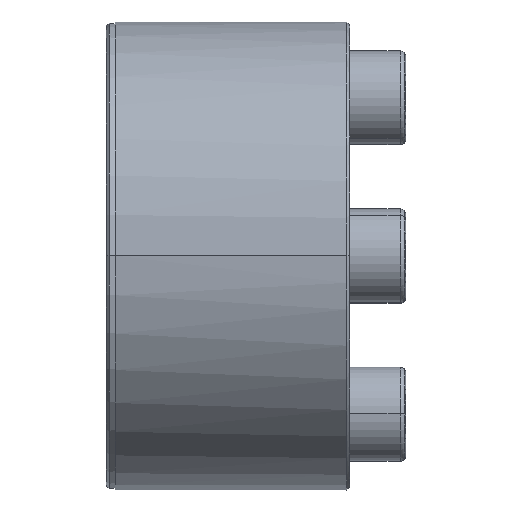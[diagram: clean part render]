
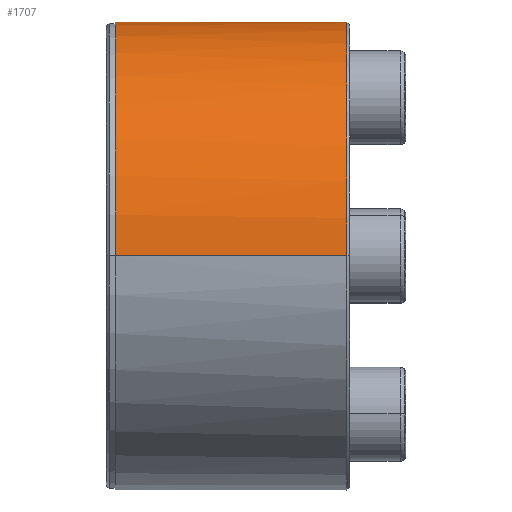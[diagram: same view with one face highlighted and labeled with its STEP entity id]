
A CAD part, top view. The second image highlights one B-rep face of the part: STEP entity #1707.
In plain terms, the highlighted cylindrical face has radius 25 mm (diameter 50 mm), a partial arc.
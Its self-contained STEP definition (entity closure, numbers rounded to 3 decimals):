
#47 = AXIS2_PLACEMENT_3D ( 'NONE', #2079, #1946, #1507 ) ;
#171 = CARTESIAN_POINT ( 'NONE',  ( 25.689, 11.078, -22.471 ) ) ;
#294 = CIRCLE ( 'NONE', #5323, 25. ) ;
#442 = VECTOR ( 'NONE', #4102, 1000. ) ;
#534 = EDGE_CURVE ( 'NONE', #4260, #1468, #294, .T. ) ;
#541 = CARTESIAN_POINT ( 'NONE',  ( 0.989, 0., 0. ) ) ;
#671 = CARTESIAN_POINT ( 'NONE',  ( 25.689, 23.723, -8.056 ) ) ;
#709 = CARTESIAN_POINT ( 'NONE',  ( 25.689, 6.481, -24.201 ) ) ;
#748 = CARTESIAN_POINT ( 'NONE',  ( 25.689, 1.635, -25. ) ) ;
#768 = DIRECTION ( 'NONE',  ( -1., 0., 0. ) ) ;
#784 = CARTESIAN_POINT ( 'NONE',  ( 25.689, 25., 1.636 ) ) ;
#927 = EDGE_CURVE ( 'NONE', #4082, #6457, #3042, .T. ) ;
#1210 = CARTESIAN_POINT ( 'NONE',  ( 25.689, 24.2, -6.482 ) ) ;
#1288 = CARTESIAN_POINT ( 'NONE',  ( 25.689, 3.271, -24.839 ) ) ;
#1360 = CARTESIAN_POINT ( 'NONE',  ( 25.689, 16.52, -18.835 ) ) ;
#1365 = EDGE_LOOP ( 'NONE', ( #7137, #1425, #5388, #5582 ) ) ;
#1379 = DIRECTION ( 'NONE',  ( 0., -0.999, 0.04 ) ) ;
#1425 = ORIENTED_EDGE ( 'NONE', *, *, #534, .F. ) ;
#1468 = VERTEX_POINT ( 'NONE', #3881 ) ;
#1507 = DIRECTION ( 'NONE',  ( 0., 0., 1. ) ) ;
#1681 = CARTESIAN_POINT ( 'NONE',  ( 25.689, 11.078, 22.471 ) ) ;
#1707 = ADVANCED_FACE ( 'NONE', ( #2549 ), #4882, .T. ) ;
#1881 = CARTESIAN_POINT ( 'NONE',  ( 25.689, 18.834, 16.521 ) ) ;
#1919 = CARTESIAN_POINT ( 'NONE',  ( 25.689, 22.471, 11.079 ) ) ;
#1946 = DIRECTION ( 'NONE',  ( 1., 0., 0. ) ) ;
#2030 = CARTESIAN_POINT ( 'NONE',  ( 0.989, 0., 25. ) ) ;
#2079 = CARTESIAN_POINT ( 'NONE',  ( 0.989, 0., 0. ) ) ;
#2181 = DIRECTION ( 'NONE',  ( 1., 0., 0. ) ) ;
#2262 = CARTESIAN_POINT ( 'NONE',  ( 25.689, 8.055, 23.723 ) ) ;
#2304 = CARTESIAN_POINT ( 'NONE',  ( 25.689, 12.528, 21.696 ) ) ;
#2451 = CARTESIAN_POINT ( 'NONE',  ( 25.689, 24.2, 6.482 ) ) ;
#2521 = CARTESIAN_POINT ( 'NONE',  ( 25.689, 19.877, 15.25 ) ) ;
#2549 = FACE_OUTER_BOUND ( 'NONE', #1365, .T. ) ;
#2934 = CARTESIAN_POINT ( 'NONE',  ( 25.689, -0.001, -25. ) ) ;
#3023 = CARTESIAN_POINT ( 'NONE',  ( 25.689, 23.723, 8.056 ) ) ;
#3042 = B_SPLINE_CURVE_WITH_KNOTS ( 'NONE', 3,
 ( #5173, #7508, #7548, #6942, #2262, #1681, #2304, #6980, #3582, #1881, #2521, #4888, #1919, #3023, #2451, #3698, #784, #4203, #4857, #1210, #671, #4130, #5430, #4239, #7096, #1360, #6486, #6558, #171, #5359, #709, #1288, #748, #7169 ),
 .UNSPECIFIED., .F., .F.,
 ( 4, 2, 2, 2, 2, 2, 2, 2, 2, 2, 2, 2, 2, 2, 2, 2, 4 ),
 ( 0.247, 0.278, 0.31, 0.342, 0.373, 0.405, 0.437, 0.468, 0.5, 0.532, 0.563, 0.595, 0.627, 0.658, 0.69, 0.722, 0.753 ),
 .UNSPECIFIED. ) ;
#3527 = LINE ( 'NONE', #7412, #442 ) ;
#3582 = CARTESIAN_POINT ( 'NONE',  ( 25.689, 16.52, 18.835 ) ) ;
#3698 = CARTESIAN_POINT ( 'NONE',  ( 25.689, 24.839, 3.273 ) ) ;
#3881 = CARTESIAN_POINT ( 'NONE',  ( 0.989, 0., -25. ) ) ;
#4082 = VERTEX_POINT ( 'NONE', #5912 ) ;
#4100 = LINE ( 'NONE', #6992, #7059 ) ;
#4102 = DIRECTION ( 'NONE',  ( 1., 0., 0. ) ) ;
#4130 = CARTESIAN_POINT ( 'NONE',  ( 25.689, 22.471, -11.079 ) ) ;
#4203 = CARTESIAN_POINT ( 'NONE',  ( 25.689, 25., -1.636 ) ) ;
#4239 = CARTESIAN_POINT ( 'NONE',  ( 25.689, 19.877, -15.25 ) ) ;
#4260 = VERTEX_POINT ( 'NONE', #2030 ) ;
#4857 = CARTESIAN_POINT ( 'NONE',  ( 25.689, 24.839, -3.273 ) ) ;
#4882 = CYLINDRICAL_SURFACE ( 'NONE', #47, 25. ) ;
#4888 = CARTESIAN_POINT ( 'NONE',  ( 25.689, 21.696, 12.529 ) ) ;
#4983 = EDGE_CURVE ( 'NONE', #4260, #4082, #3527, .T. ) ;
#5173 = CARTESIAN_POINT ( 'NONE',  ( 25.689, -0.001, 25. ) ) ;
#5323 = AXIS2_PLACEMENT_3D ( 'NONE', #541, #768, #1379 ) ;
#5359 = CARTESIAN_POINT ( 'NONE',  ( 25.689, 8.055, -23.723 ) ) ;
#5388 = ORIENTED_EDGE ( 'NONE', *, *, #4983, .T. ) ;
#5430 = CARTESIAN_POINT ( 'NONE',  ( 25.689, 21.696, -12.529 ) ) ;
#5582 = ORIENTED_EDGE ( 'NONE', *, *, #927, .T. ) ;
#5912 = CARTESIAN_POINT ( 'NONE',  ( 25.689, -0.001, 25. ) ) ;
#6173 = EDGE_CURVE ( 'NONE', #1468, #6457, #4100, .T. ) ;
#6457 = VERTEX_POINT ( 'NONE', #2934 ) ;
#6486 = CARTESIAN_POINT ( 'NONE',  ( 25.689, 15.249, -19.878 ) ) ;
#6558 = CARTESIAN_POINT ( 'NONE',  ( 25.689, 12.528, -21.696 ) ) ;
#6942 = CARTESIAN_POINT ( 'NONE',  ( 25.689, 6.481, 24.201 ) ) ;
#6980 = CARTESIAN_POINT ( 'NONE',  ( 25.689, 15.249, 19.878 ) ) ;
#6992 = CARTESIAN_POINT ( 'NONE',  ( 0.989, 0., -25. ) ) ;
#7059 = VECTOR ( 'NONE', #2181, 1000. ) ;
#7096 = CARTESIAN_POINT ( 'NONE',  ( 25.689, 18.834, -16.521 ) ) ;
#7137 = ORIENTED_EDGE ( 'NONE', *, *, #6173, .F. ) ;
#7169 = CARTESIAN_POINT ( 'NONE',  ( 25.689, -0.001, -25. ) ) ;
#7412 = CARTESIAN_POINT ( 'NONE',  ( 0.989, 0., 25. ) ) ;
#7508 = CARTESIAN_POINT ( 'NONE',  ( 25.689, 1.635, 25. ) ) ;
#7548 = CARTESIAN_POINT ( 'NONE',  ( 25.689, 3.271, 24.839 ) ) ;
